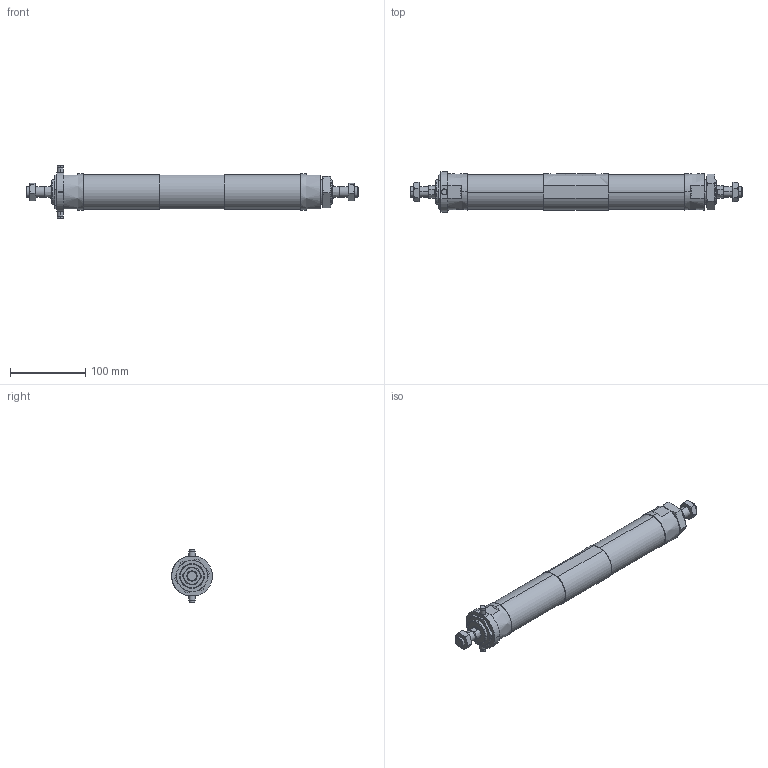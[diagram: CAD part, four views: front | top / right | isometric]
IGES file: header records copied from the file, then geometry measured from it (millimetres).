
Start section: SolidWorks IGES file using analytic representation for surfaces
Global section: file name: C:\Users\Toshiba\Desktop\JGD7-40-50-50-T.IGS; native system: SolidWorks 2014; preprocessor: SolidWorks 2014; author: Toshiba; date: 160419.152607; units: millimetre
Bounding box: 440 x 54 x 70 mm (x, y, z)
Surface area: 90700.9 mm2 (no closed solid volume)
Topology: 0 solids, 0 shells, 199 faces, 3636 edges, 3628 vertices
Faces by surface type: bspline 114, revolution 85
